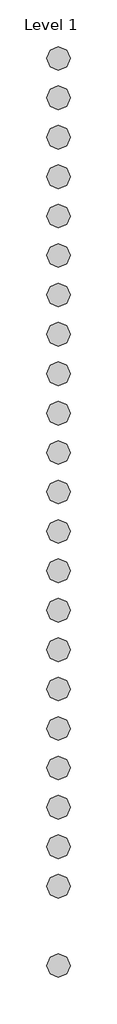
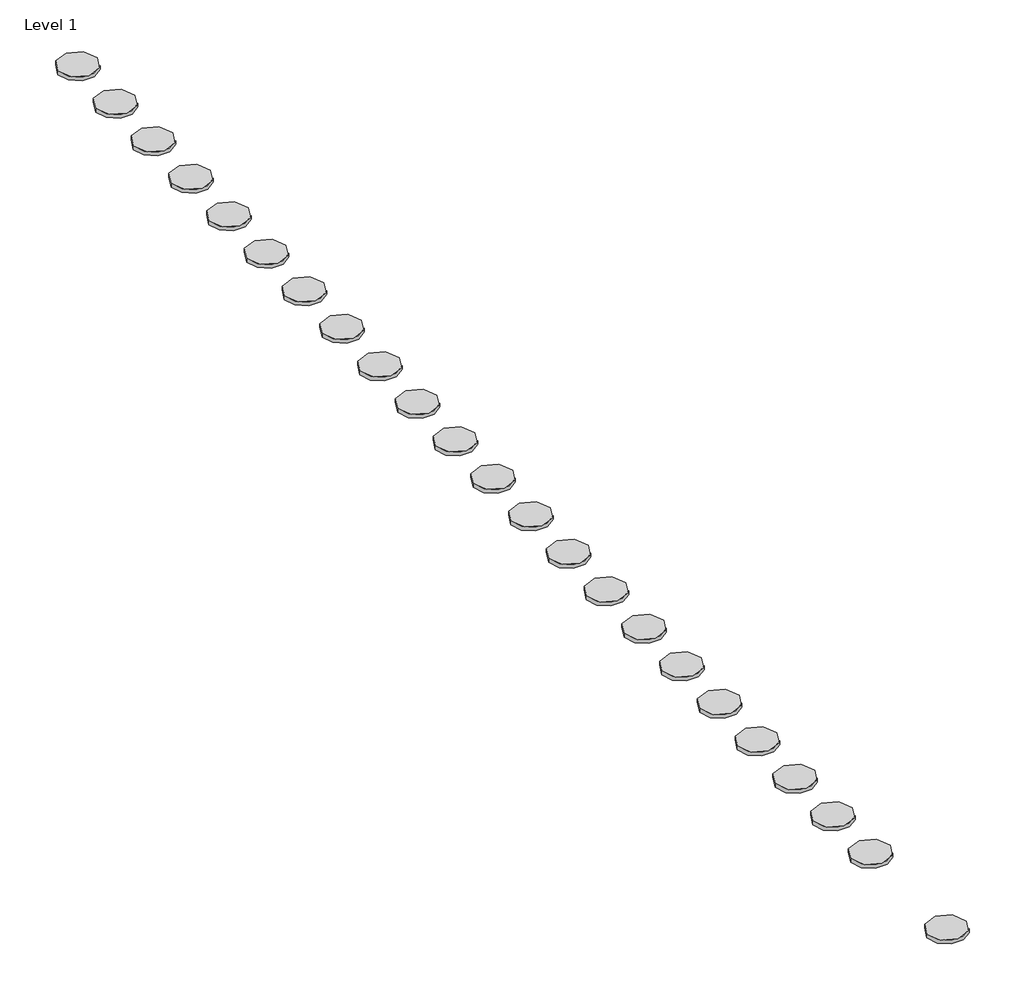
# One storey, incomplete: 23 proxies.
"""IFC4 building model written with IfcOpenShell, lengths in millimetres."""

import ifcopenshell
import ifcopenshell.guid

model = None  # the IFC model being written
_history = None  # IfcOwnerHistory: only IFC2X3 demands one
_inside = {}  # id of a spatial element -> (the spatial element, [elements in it])
_under = {}  # id of a project, library or spatial element -> (it, [spatial elements below it])
_declared = {}  # id of a project -> (the project, [libraries it declares])
_typed = {}  # id of a type object -> (the type object, [elements of that type])
_made_of = {}  # id of a material, layer set ... -> (it, [elements and type objects made of it])


def new_model(schema):
    """Start an empty IFC model of exactly this schema.

    Asked for "IFC4X3", IfcOpenShell would pick the latest addendum, in which some entities
    have other attributes; the version numbers below select the first issue.
    IFC2X3 requires an IfcOwnerHistory on every rooted entity: one is made here for all.
    """
    global model, _history
    if schema == "IFC4X3":
        model = ifcopenshell.file(schema_version=(4, 3, 0, 0))
    else:
        model = ifcopenshell.file(schema=schema)
    _inside.clear()
    _under.clear()
    _declared.clear()
    _typed.clear()
    _made_of.clear()
    _history = None
    if model.schema == "IFC2X3":
        org = make("IfcOrganization", Name="unknown")
        user = make(
            "IfcPersonAndOrganization",
            ThePerson=make("IfcPerson", FamilyName="unknown"),
            TheOrganization=org,
        )
        app = make(
            "IfcApplication",
            ApplicationDeveloper=org,
            Version="unknown",
            ApplicationFullName="unknown",
            ApplicationIdentifier="unknown",
        )
        _history = make(
            "IfcOwnerHistory",
            OwningUser=user,
            OwningApplication=app,
            ChangeAction="ADDED",
            CreationDate=0,
        )
    return model


def make(cls, **values):
    """One entity of the class cls with the attributes given. An attribute that is None is left unset."""
    return model.create_entity(
        cls, **{name: value for name, value in values.items() if value is not None}
    )


def rooted(cls, **values):
    """An entity with a GlobalId (a new one), such as an element, a storey or a relation."""
    return make(cls, GlobalId=ifcopenshell.guid.new(), OwnerHistory=_history, **values)


def si_unit(unit_type, name, prefix=None):
    """IfcSIUnit, for example si_unit("LENGTHUNIT", "METRE", prefix="MILLI")."""
    return make("IfcSIUnit", UnitType=unit_type, Prefix=prefix, Name=name)


def assignment(units):
    """IfcUnitAssignment: the units of a project."""
    return None if units is None else make("IfcUnitAssignment", Units=units)


def point(xyz):
    """IfcCartesianPoint."""
    return None if xyz is None else make("IfcCartesianPoint", Coordinates=xyz)


def direction(xyz):
    """IfcDirection."""
    return None if xyz is None else make("IfcDirection", DirectionRatios=xyz)


def frame(location, z_axis=None, x_axis=None):
    """IfcAxis2Placement3D, a coordinate frame: its origin and axes. An axis left out is left unset."""
    return make(
        "IfcAxis2Placement3D",
        Location=point(location),
        Axis=direction(z_axis),
        RefDirection=direction(x_axis),
    )


def frame_2d(location, x_axis=None):
    """IfcAxis2Placement2D, a coordinate frame in the plane: its origin and x axis."""
    return make(
        "IfcAxis2Placement2D", Location=point(location), RefDirection=direction(x_axis)
    )


def origin():
    """The frame at (0, 0, 0) with its axes left unset."""
    return frame((0.0, 0.0, 0.0))


def origin_with_axes():
    """The frame at (0, 0, 0) with the z axis (0, 0, 1) and the x axis (1, 0, 0) written out."""
    return frame((0.0, 0.0, 0.0), z_axis=(0.0, 0.0, 1.0), x_axis=(1.0, 0.0, 0.0))


def origin_2d():
    """The frame at (0, 0) in the plane with its x axis left unset."""
    return frame_2d((0.0, 0.0))


def place(relative_to, where):
    """IfcLocalPlacement: puts the frame where relative to a parent placement (None: the world)."""
    return make(
        "IfcLocalPlacement", PlacementRelTo=relative_to, RelativePlacement=where
    )


def context(
    kind, dimensions, precision=None, world=None, true_north=None, identifier=None
):
    """IfcGeometricRepresentationContext, for example the 3D "Model" context."""
    return make(
        "IfcGeometricRepresentationContext",
        ContextIdentifier=identifier,
        ContextType=kind,
        CoordinateSpaceDimension=dimensions,
        Precision=precision,
        WorldCoordinateSystem=world,
        TrueNorth=true_north,
    )


def project(units=None, contexts=None):
    """IfcProject with its units and contexts."""
    return rooted(
        "IfcProject",
        Name="project",
        RepresentationContexts=contexts,
        UnitsInContext=assignment(units),
    )


def spatial(cls, under=None, at=None, **own):
    """A site, building, storey or space (cls), placed at a placement, below another one or the project."""
    s = rooted(cls, ObjectPlacement=at, **own)
    if under is not None:
        _under.setdefault(under.id(), (under, []))[1].append(s)
    return s


def circle_curve(where, radius):
    """IfcCircle in the frame where."""
    return make("IfcCircle", Position=where, Radius=radius)


def trimmed(basis, trim1, trim2, sense, master):
    """IfcTrimmedCurve: the piece of a basis curve between two trims."""
    return make(
        "IfcTrimmedCurve",
        BasisCurve=basis,
        Trim1=trim1,
        Trim2=trim2,
        SenseAgreement=sense,
        MasterRepresentation=master,
    )


def segment(curve, same_sense, transition):
    """IfcCompositeCurveSegment."""
    return make(
        "IfcCompositeCurveSegment",
        Transition=transition,
        SameSense=same_sense,
        ParentCurve=curve,
    )


def composite_curve(segments, self_intersect=None):
    """IfcCompositeCurve: segments joined end to end."""
    return make("IfcCompositeCurve", Segments=segments, SelfIntersect=self_intersect)


def outline(outer, holes=None, kind="AREA"):
    """IfcArbitraryClosedProfileDef: a profile drawn as a closed curve; with holes, ...WithVoids."""
    if holes is None:
        return make("IfcArbitraryClosedProfileDef", ProfileType=kind, OuterCurve=outer)
    return make(
        "IfcArbitraryProfileDefWithVoids",
        ProfileType=kind,
        OuterCurve=outer,
        InnerCurves=holes,
    )


def extrude(swept, where, along, depth):
    """IfcExtrudedAreaSolid: the profile swept, set in the frame where, extruded along a direction by depth."""
    return make(
        "IfcExtrudedAreaSolid",
        SweptArea=swept,
        Position=where,
        ExtrudedDirection=direction(along),
        Depth=depth,
    )


def shape(context_of_items, identifier, shape_type, items):
    """IfcShapeRepresentation: the items that make up one representation, for example the "Body"."""
    return make(
        "IfcShapeRepresentation",
        ContextOfItems=context_of_items,
        RepresentationIdentifier=identifier,
        RepresentationType=shape_type,
        Items=items,
    )


def source(mapping_origin, context_of_items, identifier, shape_type, items):
    """IfcRepresentationMap: a shape defined once, which mapped items show again and again."""
    return make(
        "IfcRepresentationMap",
        MappingOrigin=mapping_origin,
        MappedRepresentation=shape(context_of_items, identifier, shape_type, items),
    )


def transform(
    local_origin,
    x_axis=None,
    y_axis=None,
    z_axis=None,
    scale=None,
    scale2=None,
    scale3=None,
    uniform=True,
):
    """IfcCartesianTransformationOperator3D, or its non-uniform kind. x_axis, y_axis, z_axis: its Axis1, 2, 3."""
    if uniform:
        return make(
            "IfcCartesianTransformationOperator3D",
            Axis1=direction(x_axis),
            Axis2=direction(y_axis),
            LocalOrigin=point(local_origin),
            Scale=scale,
            Axis3=direction(z_axis),
        )
    return make(
        "IfcCartesianTransformationOperator3DnonUniform",
        Axis1=direction(x_axis),
        Axis2=direction(y_axis),
        LocalOrigin=point(local_origin),
        Scale=scale,
        Axis3=direction(z_axis),
        Scale2=scale2,
        Scale3=scale3,
    )


def mapped(mapping_source, mapping_target):
    """IfcMappedItem: shows the shape of a source again, moved by a transform."""
    return make(
        "IfcMappedItem", MappingSource=mapping_source, MappingTarget=mapping_target
    )


def made_of(thing, what):
    """Note that an element or type object is made of a material, layer set ...; save() writes the relation."""
    if what is not None:
        _made_of.setdefault(what.id(), (what, []))[1].append(thing)
    return thing


def element(
    cls,
    number,
    at=None,
    inside=None,
    cuts=None,
    type_object=None,
    material=None,
    context=None,
    identifier="Body",
    shape_type=None,
    held_by="IfcProductDefinitionShape",
    body=None,
    shapes=None,
    **own,
):
    """One element of the class cls, such as IfcWall. Its Tag is "e" and its number.

    at: its placement. inside: the storey or other place that contains it. cuts: it is an
    opening in that element (IfcRelVoidsElement). A single representation is given by context,
    identifier, shape_type and body (its items); several are given by shapes. held_by: the class
    of the entity that holds the representations. save() writes the other relations.
    """
    e = rooted(cls, Tag="e%d" % number, ObjectPlacement=at, **own)
    if body is not None:
        shapes = [shape(context, identifier, shape_type, body)]
    if shapes is not None:
        e.Representation = make(held_by, Representations=shapes)
    if inside is not None:
        _inside.setdefault(inside.id(), (inside, []))[1].append(e)
    if cuts is not None:
        rooted(
            "IfcRelVoidsElement", RelatingBuildingElement=cuts, RelatedOpeningElement=e
        )
    if type_object is not None:
        _typed.setdefault(type_object.id(), (type_object, []))[1].append(e)
    return made_of(e, material)


def aggregate(whole, parts):
    """IfcRelAggregates: a whole, such as a stair, and the parts it consists of."""
    return rooted("IfcRelAggregates", RelatingObject=whole, RelatedObjects=parts)


def save(model, path):
    """Write the relations noted so far, then the file.

    IfcRelAggregates (storeys below a building ...), IfcRelContainedInSpatialStructure (elements
    in a storey), IfcRelDefinesByType, IfcRelAssociatesMaterial and IfcRelDeclares: one each for
    every whole, place, type object, material and project.
    """
    for whole, parts in _under.values():
        aggregate(whole, parts)
    for where, things in _inside.values():
        rooted(
            "IfcRelContainedInSpatialStructure",
            RelatedElements=things,
            RelatingStructure=where,
        )
    for kind, things in _typed.values():
        rooted("IfcRelDefinesByType", RelatedObjects=things, RelatingType=kind)
    for what, things in _made_of.values():
        rooted("IfcRelAssociatesMaterial", RelatedObjects=things, RelatingMaterial=what)
    for by, libraries in _declared.values():
        rooted("IfcRelDeclares", RelatingContext=by, RelatedDefinitions=libraries)
    model.write(path)


def materialmodel_materialmodel_ac00f72a(model_context):
    return source(origin(), model_context, "Body", "SweptSolid", [
        extrude(outline(composite_curve([segment(trimmed(circle_curve(origin_2d(), 100.0), [point((-100.0, 0.0))], [point((100.0, 0.0))], False, "CARTESIAN"), True, "CONTINUOUS"), segment(trimmed(circle_curve(origin_2d(), 100.0), [point((100.0, 0.0))], [point((-100.0, 0.0))], False, "CARTESIAN"), True, "CONTINUOUS")], self_intersect=False)), origin_with_axes(), (0.0, 0.0, 1.0), 20.0),
    ])


model = new_model("IFC4")

# Units and contexts
model_context = context("Model", 3, world=origin())
ifc_project = project(units=[si_unit("LENGTHUNIT", "METRE", prefix="MILLI")], contexts=[model_context])

# Site, building, storey
site = spatial("IfcSite", under=ifc_project)
building = spatial("IfcBuilding", under=site)
storey = spatial("IfcBuildingStorey", under=building, Name="Level 1", Elevation=0.0)

# Proxies
placement = place(None, origin())
materialmodel_materialmodel_shape = materialmodel_materialmodel_ac00f72a(model_context)
element("IfcBuildingElementProxy", 1, Name="MaterialModel : MaterialModel", ObjectType="MaterialModel : MaterialModel", at=placement, inside=storey, context=model_context, shape_type="MappedRepresentation", body=[
    mapped(materialmodel_materialmodel_shape, transform((-10361.5400174, 9702.7076211, 0.0), x_axis=(1.0, 0.0, 0.0), y_axis=(0.0, 1.0, 0.0), z_axis=(0.0, 0.0, 1.0))),
])
element("IfcBuildingElementProxy", 2, Name="MaterialModel : MaterialModel", ObjectType="MaterialModel : MaterialModel", at=placement, inside=storey, context=model_context, shape_type="MappedRepresentation", body=[
    mapped(materialmodel_materialmodel_shape, transform((-10361.5400174, 9370.126844, 0.0), x_axis=(1.0, 0.0, 0.0), y_axis=(0.0, 1.0, 0.0), z_axis=(0.0, 0.0, 1.0))),
])
element("IfcBuildingElementProxy", 3, Name="MaterialModel : MaterialModel", ObjectType="MaterialModel : MaterialModel", at=placement, inside=storey, context=model_context, shape_type="MappedRepresentation", body=[
    mapped(materialmodel_materialmodel_shape, transform((-10361.5400174, 9037.5460668, 0.0), x_axis=(1.0, 0.0, 0.0), y_axis=(0.0, 1.0, 0.0), z_axis=(0.0, 0.0, 1.0))),
])
element("IfcBuildingElementProxy", 4, Name="MaterialModel : MaterialModel", ObjectType="MaterialModel : MaterialModel", at=placement, inside=storey, context=model_context, shape_type="MappedRepresentation", body=[
    mapped(materialmodel_materialmodel_shape, transform((-10361.5400174, 7042.0614042, 0.0), x_axis=(1.0, 0.0, 0.0), y_axis=(0.0, 1.0, 0.0), z_axis=(0.0, 0.0, 1.0))),
])
element("IfcBuildingElementProxy", 5, Name="MaterialModel : MaterialModel", ObjectType="MaterialModel : MaterialModel", at=placement, inside=storey, context=model_context, shape_type="MappedRepresentation", body=[
    mapped(materialmodel_materialmodel_shape, transform((-10361.5400174, 2048.4389304, 0.0), x_axis=(1.0, 0.0, 0.0), y_axis=(0.0, 1.0, 0.0), z_axis=(0.0, 0.0, 1.0))),
])
element("IfcBuildingElementProxy", 6, Name="MaterialModel : MaterialModel", ObjectType="MaterialModel : MaterialModel", at=placement, inside=storey, context=model_context, shape_type="MappedRepresentation", body=[
    mapped(materialmodel_materialmodel_shape, transform((-10361.5400174, 8704.9652897, 0.0), x_axis=(1.0, 0.0, 0.0), y_axis=(0.0, 1.0, 0.0), z_axis=(0.0, 0.0, 1.0))),
])
element("IfcBuildingElementProxy", 7, Name="MaterialModel : MaterialModel", ObjectType="MaterialModel : MaterialModel", at=placement, inside=storey, context=model_context, shape_type="MappedRepresentation", body=[
    mapped(materialmodel_materialmodel_shape, transform((-10361.5400174, 8372.3845126, 0.0), x_axis=(1.0, 0.0, 0.0), y_axis=(0.0, 1.0, 0.0), z_axis=(0.0, 0.0, 1.0))),
])
element("IfcBuildingElementProxy", 8, Name="MaterialModel : MaterialModel", ObjectType="MaterialModel : MaterialModel", at=placement, inside=storey, context=model_context, shape_type="MappedRepresentation", body=[
    mapped(materialmodel_materialmodel_shape, transform((-10361.5400174, 8039.8037355, 0.0), x_axis=(1.0, 0.0, 0.0), y_axis=(0.0, 1.0, 0.0), z_axis=(0.0, 0.0, 1.0))),
])
element("IfcBuildingElementProxy", 9, Name="MaterialModel : MaterialModel", ObjectType="MaterialModel : MaterialModel", at=placement, inside=storey, context=model_context, shape_type="MappedRepresentation", body=[
    mapped(materialmodel_materialmodel_shape, transform((-10361.5400174, 7707.2229584, 0.0), x_axis=(1.0, 0.0, 0.0), y_axis=(0.0, 1.0, 0.0), z_axis=(0.0, 0.0, 1.0))),
])
element("IfcBuildingElementProxy", 10, Name="MaterialModel : MaterialModel", ObjectType="MaterialModel : MaterialModel", at=placement, inside=storey, context=model_context, shape_type="MappedRepresentation", body=[
    mapped(materialmodel_materialmodel_shape, transform((-10361.5400174, 7374.6421813, 0.0), x_axis=(1.0, 0.0, 0.0), y_axis=(0.0, 1.0, 0.0), z_axis=(0.0, 0.0, 1.0))),
])
element("IfcBuildingElementProxy", 11, Name="MaterialModel : MaterialModel", ObjectType="MaterialModel : MaterialModel", at=placement, inside=storey, context=model_context, shape_type="MappedRepresentation", body=[
    mapped(materialmodel_materialmodel_shape, transform((-10361.5400174, 6709.4806271, 0.0), x_axis=(1.0, 0.0, 0.0), y_axis=(0.0, 1.0, 0.0), z_axis=(0.0, 0.0, 1.0))),
])
element("IfcBuildingElementProxy", 12, Name="MaterialModel : MaterialModel", ObjectType="MaterialModel : MaterialModel", at=placement, inside=storey, context=model_context, shape_type="MappedRepresentation", body=[
    mapped(materialmodel_materialmodel_shape, transform((-10361.5400174, 6376.8998499, 0.0), x_axis=(1.0, 0.0, 0.0), y_axis=(0.0, 1.0, 0.0), z_axis=(0.0, 0.0, 1.0))),
])
element("IfcBuildingElementProxy", 13, Name="MaterialModel : MaterialModel", ObjectType="MaterialModel : MaterialModel", at=placement, inside=storey, context=model_context, shape_type="MappedRepresentation", body=[
    mapped(materialmodel_materialmodel_shape, transform((-10361.5400174, 6044.3190728, 0.0), x_axis=(1.0, 0.0, 0.0), y_axis=(0.0, 1.0, 0.0), z_axis=(0.0, 0.0, 1.0))),
])
element("IfcBuildingElementProxy", 14, Name="MaterialModel : MaterialModel", ObjectType="MaterialModel : MaterialModel", at=placement, inside=storey, context=model_context, shape_type="MappedRepresentation", body=[
    mapped(materialmodel_materialmodel_shape, transform((-10361.5400174, 5711.7382957, 0.0), x_axis=(1.0, 0.0, 0.0), y_axis=(0.0, 1.0, 0.0), z_axis=(0.0, 0.0, 1.0))),
])
element("IfcBuildingElementProxy", 15, Name="MaterialModel : MaterialModel", ObjectType="MaterialModel : MaterialModel", at=placement, inside=storey, context=model_context, shape_type="MappedRepresentation", body=[
    mapped(materialmodel_materialmodel_shape, transform((-10361.5400174, 5379.1575186, 0.0), x_axis=(1.0, 0.0, 0.0), y_axis=(0.0, 1.0, 0.0), z_axis=(0.0, 0.0, 1.0))),
])
element("IfcBuildingElementProxy", 16, Name="MaterialModel : MaterialModel", ObjectType="MaterialModel : MaterialModel", at=placement, inside=storey, context=model_context, shape_type="MappedRepresentation", body=[
    mapped(materialmodel_materialmodel_shape, transform((-10361.5400174, 5046.5767415, 0.0), x_axis=(1.0, 0.0, 0.0), y_axis=(0.0, 1.0, 0.0), z_axis=(0.0, 0.0, 1.0))),
])
element("IfcBuildingElementProxy", 17, Name="MaterialModel : MaterialModel", ObjectType="MaterialModel : MaterialModel", at=placement, inside=storey, context=model_context, shape_type="MappedRepresentation", body=[
    mapped(materialmodel_materialmodel_shape, transform((-10361.5400174, 4713.9959644, 0.0), x_axis=(1.0, 0.0, 0.0), y_axis=(0.0, 1.0, 0.0), z_axis=(0.0, 0.0, 1.0))),
])
element("IfcBuildingElementProxy", 18, Name="MaterialModel : MaterialModel", ObjectType="MaterialModel : MaterialModel", at=placement, inside=storey, context=model_context, shape_type="MappedRepresentation", body=[
    mapped(materialmodel_materialmodel_shape, transform((-10361.5400174, 4381.4151873, 0.0), x_axis=(1.0, 0.0, 0.0), y_axis=(0.0, 1.0, 0.0), z_axis=(0.0, 0.0, 1.0))),
])
element("IfcBuildingElementProxy", 19, Name="MaterialModel : MaterialModel", ObjectType="MaterialModel : MaterialModel", at=placement, inside=storey, context=model_context, shape_type="MappedRepresentation", body=[
    mapped(materialmodel_materialmodel_shape, transform((-10361.5400174, 4048.8344102, 0.0), x_axis=(1.0, 0.0, 0.0), y_axis=(0.0, 1.0, 0.0), z_axis=(0.0, 0.0, 1.0))),
])
element("IfcBuildingElementProxy", 20, Name="MaterialModel : MaterialModel", ObjectType="MaterialModel : MaterialModel", at=placement, inside=storey, context=model_context, shape_type="MappedRepresentation", body=[
    mapped(materialmodel_materialmodel_shape, transform((-10361.5400174, 3716.253633, 0.0), x_axis=(1.0, 0.0, 0.0), y_axis=(0.0, 1.0, 0.0), z_axis=(0.0, 0.0, 1.0))),
])
element("IfcBuildingElementProxy", 21, Name="MaterialModel : MaterialModel", ObjectType="MaterialModel : MaterialModel", at=placement, inside=storey, context=model_context, shape_type="MappedRepresentation", body=[
    mapped(materialmodel_materialmodel_shape, transform((-10361.5400174, 3383.6728559, 0.0), x_axis=(1.0, 0.0, 0.0), y_axis=(0.0, 1.0, 0.0), z_axis=(0.0, 0.0, 1.0))),
])
element("IfcBuildingElementProxy", 22, Name="MaterialModel : MaterialModel", ObjectType="MaterialModel : MaterialModel", at=placement, inside=storey, context=model_context, shape_type="MappedRepresentation", body=[
    mapped(materialmodel_materialmodel_shape, transform((-10361.5400174, 3051.0920788, 0.0), x_axis=(1.0, 0.0, 0.0), y_axis=(0.0, 1.0, 0.0), z_axis=(0.0, 0.0, 1.0))),
])
element("IfcBuildingElementProxy", 23, Name="MaterialModel : MaterialModel", ObjectType="MaterialModel : MaterialModel", at=placement, inside=storey, context=model_context, shape_type="MappedRepresentation", body=[
    mapped(materialmodel_materialmodel_shape, transform((-10361.5400174, 2718.5113017, 0.0), x_axis=(1.0, 0.0, 0.0), y_axis=(0.0, 1.0, 0.0), z_axis=(0.0, 0.0, 1.0))),
])

save(model, "model.ifc")
